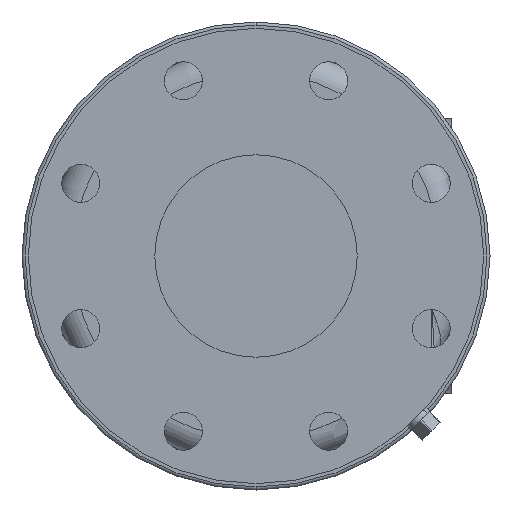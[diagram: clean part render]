
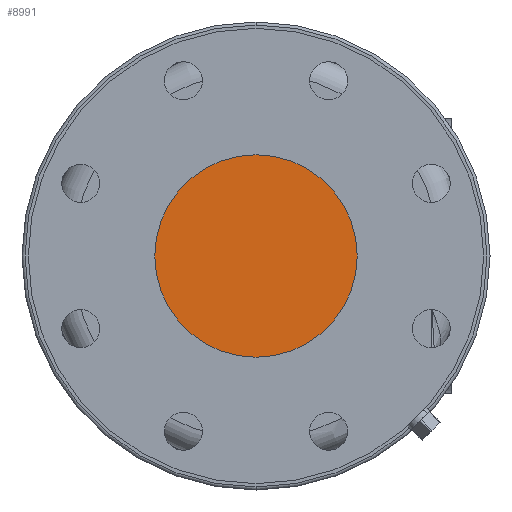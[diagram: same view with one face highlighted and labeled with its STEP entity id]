
A CAD part, front view. The second image highlights one B-rep face of the part: STEP entity #8991.
In plain terms, the highlighted planar face has unit normal (0, -1, 0).
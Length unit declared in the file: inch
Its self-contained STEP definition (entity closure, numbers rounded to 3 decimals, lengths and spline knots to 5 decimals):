
#5097 = DIRECTION ( 'NONE',  ( 1., 0., 0. ) ) ;
#6956 = ORIENTED_EDGE ( 'NONE', *, *, #48060, .T. ) ;
#7668 = DIRECTION ( 'NONE',  ( 0., 0., -1. ) ) ;
#8991 = ADVANCED_FACE ( 'NONE', ( #46093 ), #41324, .T. ) ;
#12046 = VERTEX_POINT ( 'NONE', #14967 ) ;
#12126 = DIRECTION ( 'NONE',  ( 1., 0., 0. ) ) ;
#14967 = CARTESIAN_POINT ( 'NONE',  ( 0., -12.4239, -2. ) ) ;
#15419 = ORIENTED_EDGE ( 'NONE', *, *, #49668, .T. ) ;
#16890 = CARTESIAN_POINT ( 'NONE',  ( 0., -12.4239, 0. ) ) ;
#18978 = EDGE_LOOP ( 'NONE', ( #15419, #6956 ) ) ;
#19316 = VERTEX_POINT ( 'NONE', #42261 ) ;
#22317 = CIRCLE ( 'NONE', #51732, 2. ) ;
#36235 = DIRECTION ( 'NONE',  ( 0., -1., 0. ) ) ;
#36556 = CARTESIAN_POINT ( 'NONE',  ( 2.26413, -12.4239, 0. ) ) ;
#41324 = PLANE ( 'NONE',  #56366 ) ;
#42261 = CARTESIAN_POINT ( 'NONE',  ( 0., -12.4239, 2. ) ) ;
#46093 = FACE_OUTER_BOUND ( 'NONE', #18978, .T. ) ;
#47973 = CARTESIAN_POINT ( 'NONE',  ( 0., -12.4239, 0. ) ) ;
#48060 = EDGE_CURVE ( 'NONE', #12046, #19316, #22317, .T. ) ;
#49668 = EDGE_CURVE ( 'NONE', #19316, #12046, #58097, .T. ) ;
#51732 = AXIS2_PLACEMENT_3D ( 'NONE', #16890, #36235, #12126 ) ;
#55927 = DIRECTION ( 'NONE',  ( 0., -1., 0. ) ) ;
#56366 = AXIS2_PLACEMENT_3D ( 'NONE', #36556, #55927, #7668 ) ;
#56885 = DIRECTION ( 'NONE',  ( 0., -1., 0. ) ) ;
#58097 = CIRCLE ( 'NONE', #62184, 2. ) ;
#62184 = AXIS2_PLACEMENT_3D ( 'NONE', #47973, #56885, #5097 ) ;
